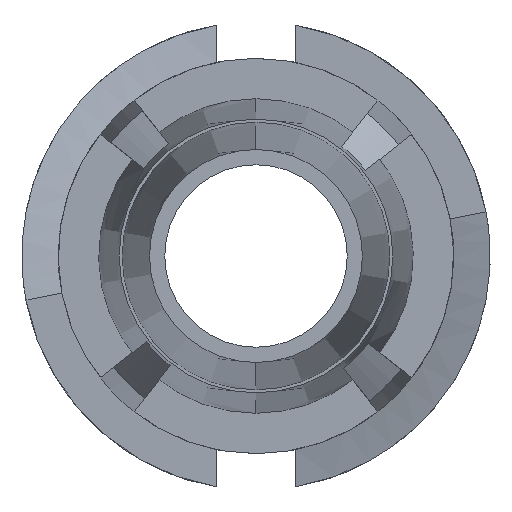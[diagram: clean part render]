
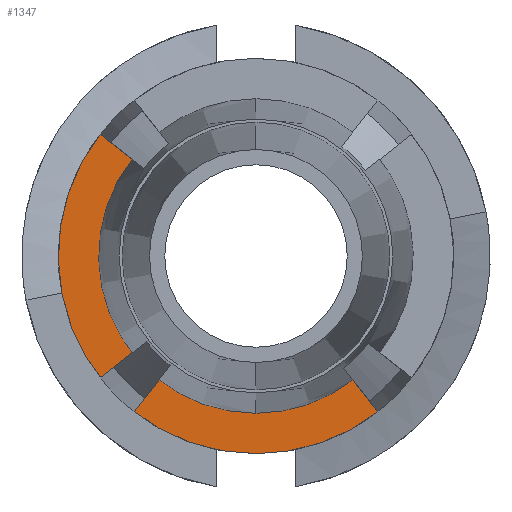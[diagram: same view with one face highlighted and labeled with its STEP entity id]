
A CAD part, left-side view. The second image highlights one B-rep face of the part: STEP entity #1347.
In plain terms, the highlighted planar face has unit normal (-1, 0, 0).
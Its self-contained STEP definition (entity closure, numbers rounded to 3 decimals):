
#23 = DIRECTION ( 'NONE',  ( 0., 0.788, 0.616 ) ) ;
#78 = AXIS2_PLACEMENT_3D ( 'NONE', #948, #1843, #1267 ) ;
#149 = ORIENTED_EDGE ( 'NONE', *, *, #1095, .T. ) ;
#164 = AXIS2_PLACEMENT_3D ( 'NONE', #696, #399, #686 ) ;
#205 = DIRECTION ( 'NONE',  ( 1., 0., 0. ) ) ;
#215 = DIRECTION ( 'NONE',  ( 1., 0., 0. ) ) ;
#223 = CARTESIAN_POINT ( 'NONE',  ( -2.8, 0., -3.25 ) ) ;
#235 = DIRECTION ( 'NONE',  ( 0., 0., -1. ) ) ;
#272 = FACE_OUTER_BOUND ( 'NONE', #1811, .T. ) ;
#291 = CARTESIAN_POINT ( 'NONE',  ( -2.8, 0., -2.586 ) ) ;
#312 = LINE ( 'NONE', #339, #330 ) ;
#318 = EDGE_CURVE ( 'NONE', #1301, #1064, #506, .T. ) ;
#329 = CIRCLE ( 'NONE', #842, 3.25 ) ;
#330 = VECTOR ( 'NONE', #23, 1000. ) ;
#339 = CARTESIAN_POINT ( 'NONE',  ( -2.8, 2.038, 1.592 ) ) ;
#352 = VERTEX_POINT ( 'NONE', #1864 ) ;
#399 = DIRECTION ( 'NONE',  ( 1., 0., 0. ) ) ;
#506 = CIRCLE ( 'NONE', #78, 2.586 ) ;
#529 = EDGE_CURVE ( 'NONE', #1274, #1631, #1137, .T. ) ;
#607 = AXIS2_PLACEMENT_3D ( 'NONE', #849, #1115, #863 ) ;
#611 = ORIENTED_EDGE ( 'NONE', *, *, #318, .T. ) ;
#617 = EDGE_CURVE ( 'NONE', #1064, #833, #312, .T. ) ;
#686 = DIRECTION ( 'NONE',  ( 0., 0., -1. ) ) ;
#696 = CARTESIAN_POINT ( 'NONE',  ( -2.8, 0., 0. ) ) ;
#743 = LINE ( 'NONE', #1030, #816 ) ;
#816 = VECTOR ( 'NONE', #1600, 1000. ) ;
#833 = VERTEX_POINT ( 'NONE', #1400 ) ;
#842 = AXIS2_PLACEMENT_3D ( 'NONE', #946, #205, #235 ) ;
#849 = CARTESIAN_POINT ( 'NONE',  ( -2.8, 3.25, 0. ) ) ;
#853 = ORIENTED_EDGE ( 'NONE', *, *, #617, .T. ) ;
#856 = PLANE ( 'NONE',  #607 ) ;
#863 = DIRECTION ( 'NONE',  ( 0., 0., 1. ) ) ;
#946 = CARTESIAN_POINT ( 'NONE',  ( -2.8, 0., 0. ) ) ;
#948 = CARTESIAN_POINT ( 'NONE',  ( -2.8, 0., 0. ) ) ;
#1030 = CARTESIAN_POINT ( 'NONE',  ( -2.8, -2.001, -2.561 ) ) ;
#1060 = CARTESIAN_POINT ( 'NONE',  ( -2.8, 0., 0. ) ) ;
#1064 = VERTEX_POINT ( 'NONE', #1749 ) ;
#1081 = ORIENTED_EDGE ( 'NONE', *, *, #1684, .F. ) ;
#1095 = EDGE_CURVE ( 'NONE', #1274, #352, #743, .T. ) ;
#1115 = DIRECTION ( 'NONE',  ( -1., 0., 0. ) ) ;
#1137 = CIRCLE ( 'NONE', #1796, 3.25 ) ;
#1267 = DIRECTION ( 'NONE',  ( 0., 0., -1. ) ) ;
#1274 = VERTEX_POINT ( 'NONE', #1697 ) ;
#1301 = VERTEX_POINT ( 'NONE', #291 ) ;
#1335 = ORIENTED_EDGE ( 'NONE', *, *, #529, .F. ) ;
#1347 = ADVANCED_FACE ( 'NONE', ( #272 ), #856, .T. ) ;
#1400 = CARTESIAN_POINT ( 'NONE',  ( -2.8, 2.561, 2.001 ) ) ;
#1534 = ORIENTED_EDGE ( 'NONE', *, *, #1848, .T. ) ;
#1554 = CIRCLE ( 'NONE', #164, 2.586 ) ;
#1600 = DIRECTION ( 'NONE',  ( 0., 0.616, 0.788 ) ) ;
#1631 = VERTEX_POINT ( 'NONE', #223 ) ;
#1684 = EDGE_CURVE ( 'NONE', #1631, #833, #329, .T. ) ;
#1697 = CARTESIAN_POINT ( 'NONE',  ( -2.8, -2.001, -2.561 ) ) ;
#1749 = CARTESIAN_POINT ( 'NONE',  ( -2.8, 2.038, 1.592 ) ) ;
#1773 = DIRECTION ( 'NONE',  ( 0., 0., -1. ) ) ;
#1796 = AXIS2_PLACEMENT_3D ( 'NONE', #1060, #215, #1773 ) ;
#1811 = EDGE_LOOP ( 'NONE', ( #1335, #149, #1534, #611, #853, #1081 ) ) ;
#1843 = DIRECTION ( 'NONE',  ( 1., 0., 0. ) ) ;
#1848 = EDGE_CURVE ( 'NONE', #352, #1301, #1554, .T. ) ;
#1864 = CARTESIAN_POINT ( 'NONE',  ( -2.8, -1.592, -2.038 ) ) ;
